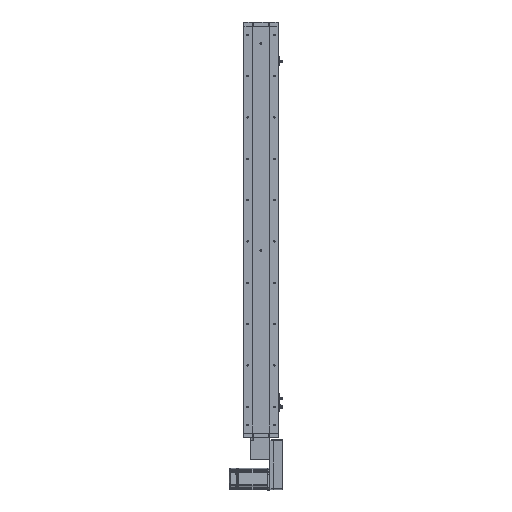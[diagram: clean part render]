
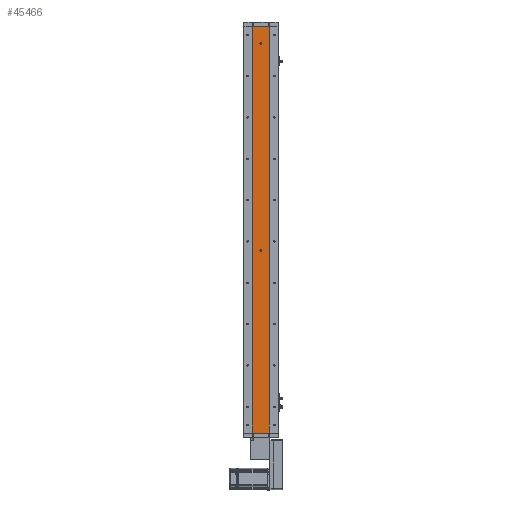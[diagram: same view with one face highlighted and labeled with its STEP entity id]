
A CAD part, left-side view. The second image highlights one B-rep face of the part: STEP entity #45466.
In plain terms, the highlighted planar face has unit normal (-1, 0, 0).
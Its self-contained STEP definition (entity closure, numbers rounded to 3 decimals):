
#2324 = DIRECTION ( 'NONE',  ( 0., 0., 1. ) ) ;
#2435 = CARTESIAN_POINT ( 'NONE',  ( -18.926, 0., 1133. ) ) ;
#2805 = CARTESIAN_POINT ( 'NONE',  ( -18.926, 24.785, 0. ) ) ;
#4674 = AXIS2_PLACEMENT_3D ( 'NONE', #21523, #59399, #26919 ) ;
#4979 = EDGE_LOOP ( 'NONE', ( #67841, #63200, #11768, #65232 ) ) ;
#6687 = VECTOR ( 'NONE', #28477, 1000. ) ;
#7421 = CIRCLE ( 'NONE', #31910, 3. ) ;
#8228 = VERTEX_POINT ( 'NONE', #63458 ) ;
#8375 = CARTESIAN_POINT ( 'NONE',  ( -18.926, 24.785, 1180. ) ) ;
#8837 = FACE_OUTER_BOUND ( 'NONE', #4979, .T. ) ;
#9626 = CARTESIAN_POINT ( 'NONE',  ( -18.926, 0., 527. ) ) ;
#11768 = ORIENTED_EDGE ( 'NONE', *, *, #26272, .F. ) ;
#13106 = EDGE_CURVE ( 'NONE', #23749, #36255, #55534, .T. ) ;
#16341 = ORIENTED_EDGE ( 'NONE', *, *, #16434, .F. ) ;
#16434 = EDGE_CURVE ( 'NONE', #51976, #45499, #59440, .T. ) ;
#17006 = DIRECTION ( 'NONE',  ( -1., 0., 0. ) ) ;
#19856 = CARTESIAN_POINT ( 'NONE',  ( -18.926, 24.785, 1180. ) ) ;
#20553 = CARTESIAN_POINT ( 'NONE',  ( -18.926, -24.785, 0. ) ) ;
#20690 = EDGE_CURVE ( 'NONE', #47405, #8228, #63771, .T. ) ;
#21049 = CARTESIAN_POINT ( 'NONE',  ( -18.926, 0., 1130. ) ) ;
#21523 = CARTESIAN_POINT ( 'NONE',  ( -18.926, 0., 1130. ) ) ;
#23271 = FACE_BOUND ( 'NONE', #27265, .T. ) ;
#23749 = VERTEX_POINT ( 'NONE', #8375 ) ;
#24014 = EDGE_CURVE ( 'NONE', #45363, #64868, #64365, .T. ) ;
#25270 = DIRECTION ( 'NONE',  ( 0., 0., -1. ) ) ;
#25545 = LINE ( 'NONE', #2805, #52655 ) ;
#26272 = EDGE_CURVE ( 'NONE', #23749, #45363, #38632, .T. ) ;
#26478 = DIRECTION ( 'NONE',  ( 0., 0., 1. ) ) ;
#26919 = DIRECTION ( 'NONE',  ( 0., 0., 1. ) ) ;
#27265 = EDGE_LOOP ( 'NONE', ( #46710, #47151 ) ) ;
#28477 = DIRECTION ( 'NONE',  ( 0., 0., -1. ) ) ;
#30316 = DIRECTION ( 'NONE',  ( 0., -1., 0. ) ) ;
#30541 = CARTESIAN_POINT ( 'NONE',  ( -18.926, 24.785, 1180. ) ) ;
#31910 = AXIS2_PLACEMENT_3D ( 'NONE', #67287, #34796, #2324 ) ;
#34796 = DIRECTION ( 'NONE',  ( -1., 0., 0. ) ) ;
#35500 = AXIS2_PLACEMENT_3D ( 'NONE', #21049, #58901, #26478 ) ;
#36221 = CIRCLE ( 'NONE', #35500, 3. ) ;
#36255 = VERTEX_POINT ( 'NONE', #53124 ) ;
#38632 = LINE ( 'NONE', #30541, #67492 ) ;
#39360 = CARTESIAN_POINT ( 'NONE',  ( -18.926, -24.785, 1180. ) ) ;
#40976 = DIRECTION ( 'NONE',  ( 0., -1., 0. ) ) ;
#43677 = CARTESIAN_POINT ( 'NONE',  ( -18.926, 24.785, 1180. ) ) ;
#45363 = VERTEX_POINT ( 'NONE', #62240 ) ;
#45427 = AXIS2_PLACEMENT_3D ( 'NONE', #19856, #57708, #25270 ) ;
#45466 = ADVANCED_FACE ( 'NONE', ( #66497, #23271, #8837 ), #62954, .F. ) ;
#45499 = VERTEX_POINT ( 'NONE', #9626 ) ;
#46710 = ORIENTED_EDGE ( 'NONE', *, *, #20690, .F. ) ;
#47151 = ORIENTED_EDGE ( 'NONE', *, *, #59015, .F. ) ;
#47405 = VERTEX_POINT ( 'NONE', #2435 ) ;
#48664 = CARTESIAN_POINT ( 'NONE',  ( -18.926, 0., 533. ) ) ;
#48736 = VECTOR ( 'NONE', #60018, 1000. ) ;
#49432 = CARTESIAN_POINT ( 'NONE',  ( -18.926, 0., 530. ) ) ;
#49526 = EDGE_LOOP ( 'NONE', ( #16341, #65418 ) ) ;
#51976 = VERTEX_POINT ( 'NONE', #48664 ) ;
#52655 = VECTOR ( 'NONE', #40976, 1000. ) ;
#53124 = CARTESIAN_POINT ( 'NONE',  ( -18.926, 24.785, 0. ) ) ;
#54852 = DIRECTION ( 'NONE',  ( 0., 0., 1. ) ) ;
#55534 = LINE ( 'NONE', #43677, #48736 ) ;
#57708 = DIRECTION ( 'NONE',  ( 1., 0., 0. ) ) ;
#57998 = AXIS2_PLACEMENT_3D ( 'NONE', #49432, #17006, #54852 ) ;
#58901 = DIRECTION ( 'NONE',  ( -1., 0., 0. ) ) ;
#59015 = EDGE_CURVE ( 'NONE', #8228, #47405, #36221, .T. ) ;
#59399 = DIRECTION ( 'NONE',  ( -1., 0., 0. ) ) ;
#59440 = CIRCLE ( 'NONE', #57998, 3. ) ;
#60018 = DIRECTION ( 'NONE',  ( 0., 0., -1. ) ) ;
#62240 = CARTESIAN_POINT ( 'NONE',  ( -18.926, -24.785, 1180. ) ) ;
#62954 = PLANE ( 'NONE',  #45427 ) ;
#63200 = ORIENTED_EDGE ( 'NONE', *, *, #24014, .F. ) ;
#63458 = CARTESIAN_POINT ( 'NONE',  ( -18.926, 0., 1127. ) ) ;
#63771 = CIRCLE ( 'NONE', #4674, 3. ) ;
#64224 = EDGE_CURVE ( 'NONE', #45499, #51976, #7421, .T. ) ;
#64365 = LINE ( 'NONE', #39360, #6687 ) ;
#64868 = VERTEX_POINT ( 'NONE', #20553 ) ;
#65232 = ORIENTED_EDGE ( 'NONE', *, *, #13106, .T. ) ;
#65418 = ORIENTED_EDGE ( 'NONE', *, *, #64224, .F. ) ;
#66497 = FACE_BOUND ( 'NONE', #49526, .T. ) ;
#67287 = CARTESIAN_POINT ( 'NONE',  ( -18.926, 0., 530. ) ) ;
#67492 = VECTOR ( 'NONE', #30316, 1000. ) ;
#67841 = ORIENTED_EDGE ( 'NONE', *, *, #69243, .T. ) ;
#69243 = EDGE_CURVE ( 'NONE', #36255, #64868, #25545, .T. ) ;
